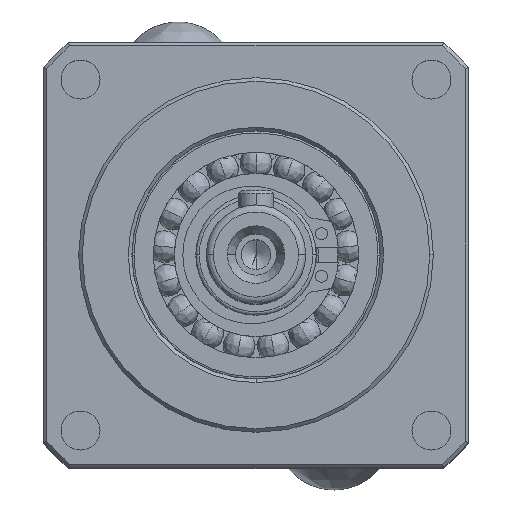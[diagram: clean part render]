
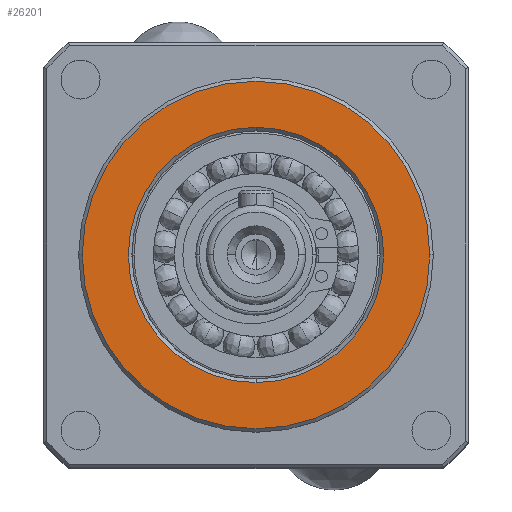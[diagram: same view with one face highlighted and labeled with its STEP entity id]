
A CAD part, top view. The second image highlights one B-rep face of the part: STEP entity #26201.
In plain terms, the highlighted planar face has unit normal (0, 0, 1) as drawn and (0, 0, -1) by its records, which use the part's own axes.
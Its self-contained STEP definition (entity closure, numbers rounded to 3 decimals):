
#1737 = CARTESIAN_POINT ( 'NONE',  ( 0., 0., -3. ) ) ;
#2440 = DIRECTION ( 'NONE',  ( 0., 0., -1. ) ) ;
#2900 = CARTESIAN_POINT ( 'NONE',  ( 0., 0., -3. ) ) ;
#3742 = CARTESIAN_POINT ( 'NONE',  ( 0., 0., -3. ) ) ;
#4428 = CARTESIAN_POINT ( 'NONE',  ( -24.5, 0., -3. ) ) ;
#4469 = DIRECTION ( 'NONE',  ( 0., 1., 0. ) ) ;
#5619 = FACE_OUTER_BOUND ( 'NONE', #29600, .T. ) ;
#5647 = DIRECTION ( 'NONE',  ( 0., 1., 0. ) ) ;
#6500 = DIRECTION ( 'NONE',  ( 1., 0., 0. ) ) ;
#6899 = ORIENTED_EDGE ( 'NONE', *, *, #32650, .T. ) ;
#8025 = CARTESIAN_POINT ( 'NONE',  ( 0., 18., -3. ) ) ;
#8121 = CARTESIAN_POINT ( 'NONE',  ( 0., 0., -3. ) ) ;
#8892 = VERTEX_POINT ( 'NONE', #26761 ) ;
#11009 = DIRECTION ( 'NONE',  ( 1., 0., 0. ) ) ;
#12970 = CIRCLE ( 'NONE', #22903, 24.5 ) ;
#13619 = CARTESIAN_POINT ( 'NONE',  ( 24.794, -24.794, -3. ) ) ;
#18782 = CIRCLE ( 'NONE', #22006, 24.5 ) ;
#20200 = CIRCLE ( 'NONE', #22518, 18. ) ;
#21597 = DIRECTION ( 'NONE',  ( 0., 0., 1. ) ) ;
#21780 = FACE_BOUND ( 'NONE', #28710, .T. ) ;
#22006 = AXIS2_PLACEMENT_3D ( 'NONE', #3742, #23738, #6500 ) ;
#22121 = AXIS2_PLACEMENT_3D ( 'NONE', #2900, #22851, #5647 ) ;
#22341 = DIRECTION ( 'NONE',  ( -1., 0., 0. ) ) ;
#22518 = AXIS2_PLACEMENT_3D ( 'NONE', #1737, #21597, #4469 ) ;
#22851 = DIRECTION ( 'NONE',  ( 0., 0., 1. ) ) ;
#22903 = AXIS2_PLACEMENT_3D ( 'NONE', #8121, #28280, #11009 ) ;
#23738 = DIRECTION ( 'NONE',  ( 0., 0., -1. ) ) ;
#25625 = ORIENTED_EDGE ( 'NONE', *, *, #32933, .T. ) ;
#25673 = VERTEX_POINT ( 'NONE', #8025 ) ;
#25738 = CARTESIAN_POINT ( 'NONE',  ( 24.5, 0., -3. ) ) ;
#26201 = ADVANCED_FACE ( 'NONE', ( #21780, #5619 ), #28008, .T. ) ;
#26761 = CARTESIAN_POINT ( 'NONE',  ( 0., -18., -3. ) ) ;
#28008 = PLANE ( 'NONE',  #33151 ) ;
#28280 = DIRECTION ( 'NONE',  ( 0., 0., -1. ) ) ;
#28710 = EDGE_LOOP ( 'NONE', ( #25625, #30714 ) ) ;
#29105 = ORIENTED_EDGE ( 'NONE', *, *, #33172, .T. ) ;
#29600 = EDGE_LOOP ( 'NONE', ( #29105, #6899 ) ) ;
#30714 = ORIENTED_EDGE ( 'NONE', *, *, #33112, .T. ) ;
#32650 = EDGE_CURVE ( 'NONE', #33272, #33927, #12970, .T. ) ;
#32933 = EDGE_CURVE ( 'NONE', #25673, #8892, #20200, .T. ) ;
#33112 = EDGE_CURVE ( 'NONE', #8892, #25673, #36801, .T. ) ;
#33151 = AXIS2_PLACEMENT_3D ( 'NONE', #13619, #2440, #22341 ) ;
#33172 = EDGE_CURVE ( 'NONE', #33927, #33272, #18782, .T. ) ;
#33272 = VERTEX_POINT ( 'NONE', #4428 ) ;
#33927 = VERTEX_POINT ( 'NONE', #25738 ) ;
#36801 = CIRCLE ( 'NONE', #22121, 18. ) ;
